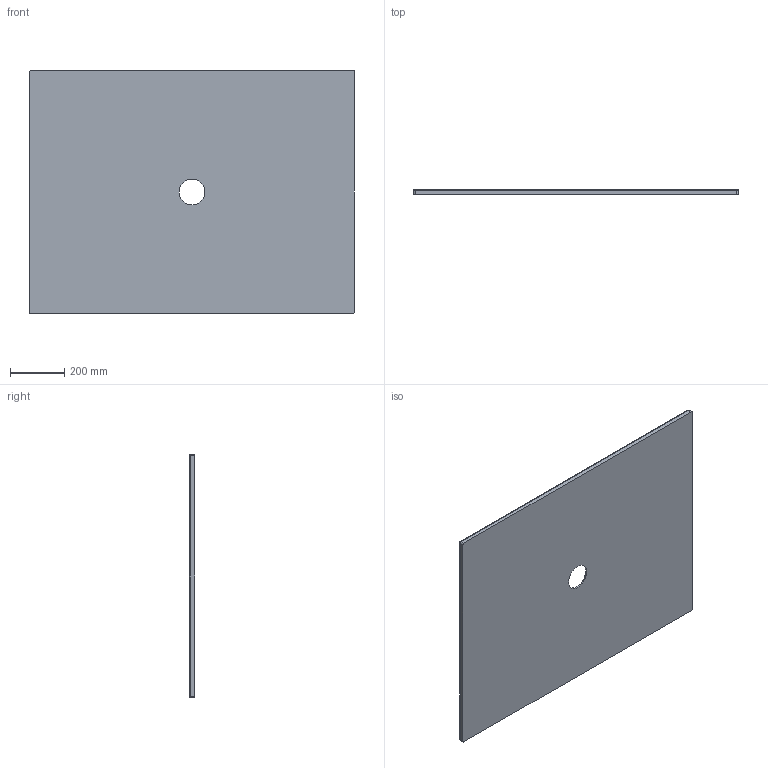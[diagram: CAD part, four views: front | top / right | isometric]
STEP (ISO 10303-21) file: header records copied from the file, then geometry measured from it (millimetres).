
FILE_DESCRIPTION (( 'STEP AP203' ), '1' );
FILE_NAME ('SDPD12009020.STEP', '2023-03-31T10:39:12', ( '' ), ( '' ), 'SwSTEP 2.0', 'SolidWorks 2023', '' );
FILE_SCHEMA (( 'CONFIG_CONTROL_DESIGN' ));
Length unit declared in the file: millimetre
Products named in the file (1): SDPD12009020
Bounding box: 1200 x 20 x 900 mm (x, y, z)
Volume: 17998332 mm3; surface area: 2215574.2 mm2
Topology: 1 solids, 1 shells, 26 faces, 62 edges, 40 vertices
Faces by surface type: cylinder 9, plane 8, sphere 4, bspline 2, torus 2, cone 1
Full cylindrical faces by diameter (mm): 95 x1
Entity records: 2533 total; most frequent: CARTESIAN_POINT 1917, DIRECTION 108, ORIENTED_EDGE 104, EDGE_CURVE 52, AXIS2_PLACEMENT_3D 44, VERTEX_POINT 36, EDGE_LOOP 36, FACE_OUTER_BOUND 31
